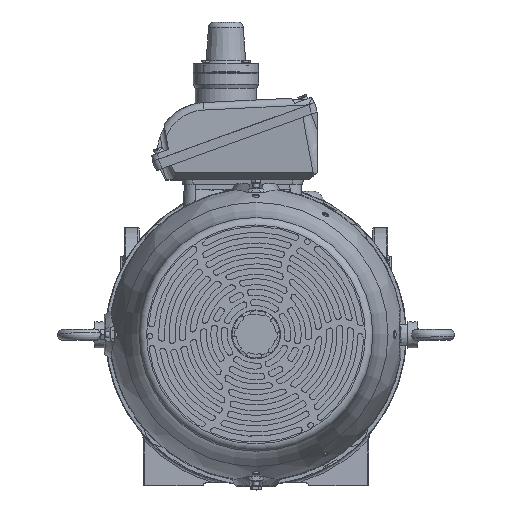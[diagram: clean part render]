
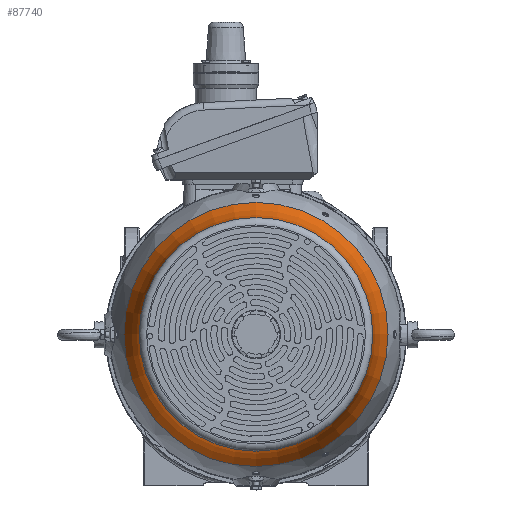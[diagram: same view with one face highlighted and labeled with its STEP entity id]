
A CAD part, top view. The second image highlights one B-rep face of the part: STEP entity #87740.
In plain terms, the highlighted toroidal (fillet/blend) face has major radius 333.581 mm and minor radius 178.663 mm.
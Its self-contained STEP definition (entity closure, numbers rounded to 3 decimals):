
#10079=TOROIDAL_SURFACE('',#94758,333.581,178.663);
#15847=FACE_OUTER_BOUND('',#21043,.T.);
#21043=EDGE_LOOP('',(#75206,#75207,#75208,#75209,#75210,#75211));
#34820=CIRCLE('',#94759,155.304);
#34821=CIRCLE('',#94760,155.304);
#34822=CIRCLE('',#94761,178.663);
#34823=CIRCLE('',#94762,175.502);
#34824=CIRCLE('',#94763,175.502);
#42086=VERTEX_POINT('',#202797);
#42087=VERTEX_POINT('',#202798);
#42088=VERTEX_POINT('',#202801);
#42089=VERTEX_POINT('',#202803);
#53613=EDGE_CURVE('',#42086,#42087,#34820,.T.);
#53614=EDGE_CURVE('',#42087,#42086,#34821,.T.);
#53615=EDGE_CURVE('',#42087,#42088,#34822,.T.);
#53616=EDGE_CURVE('',#42088,#42089,#34823,.T.);
#53617=EDGE_CURVE('',#42089,#42088,#34824,.T.);
#75206=ORIENTED_EDGE('',*,*,#53613,.F.);
#75207=ORIENTED_EDGE('',*,*,#53614,.F.);
#75208=ORIENTED_EDGE('',*,*,#53615,.T.);
#75209=ORIENTED_EDGE('',*,*,#53616,.T.);
#75210=ORIENTED_EDGE('',*,*,#53617,.T.);
#75211=ORIENTED_EDGE('',*,*,#53615,.F.);
#87740=ADVANCED_FACE('',(#15847),#10079,.F.);
#94758=AXIS2_PLACEMENT_3D('',#202796,#112069,#112070);
#94759=AXIS2_PLACEMENT_3D('',#202799,#112071,#112072);
#94760=AXIS2_PLACEMENT_3D('',#202800,#112073,#112074);
#94761=AXIS2_PLACEMENT_3D('',#202802,#112075,#112076);
#94762=AXIS2_PLACEMENT_3D('',#202804,#112077,#112078);
#94763=AXIS2_PLACEMENT_3D('',#202805,#112079,#112080);
#112069=DIRECTION('center_axis',(0.,0.,
1.));
#112070=DIRECTION('ref_axis',(0.,1.,0.));
#112071=DIRECTION('center_axis',(0.,0.,
1.));
#112072=DIRECTION('ref_axis',(0.,1.,0.));
#112073=DIRECTION('center_axis',(0.,0.,
1.));
#112074=DIRECTION('ref_axis',(0.,1.,0.));
#112075=DIRECTION('center_axis',(-1.,0.,0.));
#112076=DIRECTION('ref_axis',(0.,-1.,0.));
#112077=DIRECTION('center_axis',(0.,0.,
1.));
#112078=DIRECTION('ref_axis',(0.,1.,0.));
#112079=DIRECTION('center_axis',(0.,0.,
1.));
#112080=DIRECTION('ref_axis',(0.,1.,0.));
#202796=CARTESIAN_POINT('Origin',(0.,0.,
778.528));
#202797=CARTESIAN_POINT('',(0.,155.304,766.784));
#202798=CARTESIAN_POINT('',(0.,-155.304,766.784));
#202799=CARTESIAN_POINT('Origin',(0.,0.,
766.784));
#202800=CARTESIAN_POINT('Origin',(0.,0.,
766.784));
#202801=CARTESIAN_POINT('',(0.,-175.502,695.273));
#202802=CARTESIAN_POINT('Origin',(0.,-333.581,
778.528));
#202803=CARTESIAN_POINT('',(0.,175.502,695.273));
#202804=CARTESIAN_POINT('Origin',(0.,0.,
695.273));
#202805=CARTESIAN_POINT('Origin',(0.,0.,
695.273));
